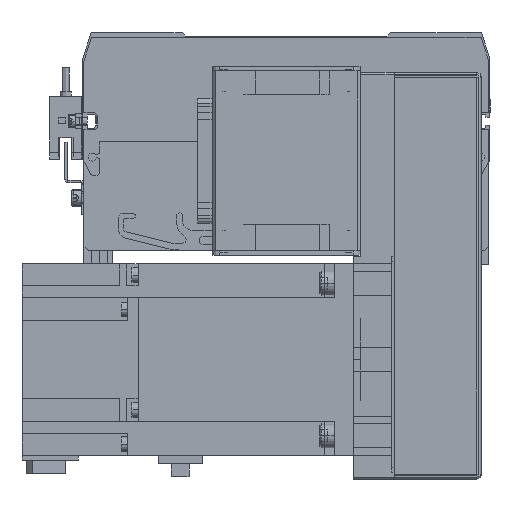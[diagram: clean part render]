
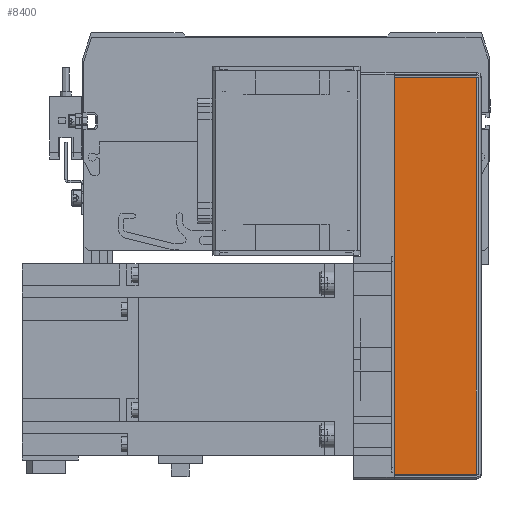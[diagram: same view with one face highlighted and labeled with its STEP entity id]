
A CAD part, front view. The second image highlights one B-rep face of the part: STEP entity #8400.
In plain terms, the highlighted planar face has unit normal (0, -1, 0).
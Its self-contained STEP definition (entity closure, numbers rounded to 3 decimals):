
#545 = EDGE_CURVE ( 'NONE', #28228, #18126, #18498, .T. ) ;
#1221 = VECTOR ( 'NONE', #23696, 1000. ) ;
#1976 = EDGE_CURVE ( 'NONE', #17823, #18126, #37466, .T. ) ;
#2957 = ORIENTED_EDGE ( 'NONE', *, *, #1976, .T. ) ;
#3530 = DIRECTION ( 'NONE',  ( 0., 0., 1. ) ) ;
#3766 = DIRECTION ( 'NONE',  ( 1., 0., 0. ) ) ;
#4223 = CARTESIAN_POINT ( 'NONE',  ( 99.931, -45.778, 211.263 ) ) ;
#4476 = ORIENTED_EDGE ( 'NONE', *, *, #545, .F. ) ;
#8400 = ADVANCED_FACE ( 'NONE', ( #14669 ), #40759, .F. ) ;
#14669 = FACE_OUTER_BOUND ( 'NONE', #37637, .T. ) ;
#15854 = LINE ( 'NONE', #4223, #42550 ) ;
#17016 = CARTESIAN_POINT ( 'NONE',  ( -67.862, -45.778, 213.5 ) ) ;
#17560 = AXIS2_PLACEMENT_3D ( 'NONE', #19845, #20007, #3530 ) ;
#17823 = VERTEX_POINT ( 'NONE', #31149 ) ;
#18126 = VERTEX_POINT ( 'NONE', #43290 ) ;
#18134 = LINE ( 'NONE', #17016, #1221 ) ;
#18498 = LINE ( 'NONE', #32774, #35409 ) ;
#18884 = VECTOR ( 'NONE', #38893, 1000. ) ;
#19621 = ORIENTED_EDGE ( 'NONE', *, *, #33825, .T. ) ;
#19835 = CARTESIAN_POINT ( 'NONE',  ( -67.862, -45.778, 211.263 ) ) ;
#19845 = CARTESIAN_POINT ( 'NONE',  ( 14.931, -45.778, 213.5 ) ) ;
#19865 = EDGE_CURVE ( 'NONE', #20469, #28228, #15854, .T. ) ;
#20007 = DIRECTION ( 'NONE',  ( 0., 1., 0. ) ) ;
#20469 = VERTEX_POINT ( 'NONE', #19835 ) ;
#23696 = DIRECTION ( 'NONE',  ( 0., 0., -1. ) ) ;
#25256 = CARTESIAN_POINT ( 'NONE',  ( 97.724, -45.778, 211.263 ) ) ;
#28228 = VERTEX_POINT ( 'NONE', #25256 ) ;
#31149 = CARTESIAN_POINT ( 'NONE',  ( -67.862, -45.778, 177. ) ) ;
#32774 = CARTESIAN_POINT ( 'NONE',  ( 97.724, -45.778, 212. ) ) ;
#33825 = EDGE_CURVE ( 'NONE', #20469, #17823, #18134, .T. ) ;
#35099 = CARTESIAN_POINT ( 'NONE',  ( 14.931, -45.778, 177. ) ) ;
#35409 = VECTOR ( 'NONE', #36241, 1000. ) ;
#36241 = DIRECTION ( 'NONE',  ( 0., 0., -1. ) ) ;
#37466 = LINE ( 'NONE', #35099, #18884 ) ;
#37637 = EDGE_LOOP ( 'NONE', ( #4476, #43242, #19621, #2957 ) ) ;
#38893 = DIRECTION ( 'NONE',  ( 1., 0., 0. ) ) ;
#40759 = PLANE ( 'NONE',  #17560 ) ;
#42550 = VECTOR ( 'NONE', #3766, 1000. ) ;
#43242 = ORIENTED_EDGE ( 'NONE', *, *, #19865, .F. ) ;
#43290 = CARTESIAN_POINT ( 'NONE',  ( 97.724, -45.778, 177. ) ) ;
